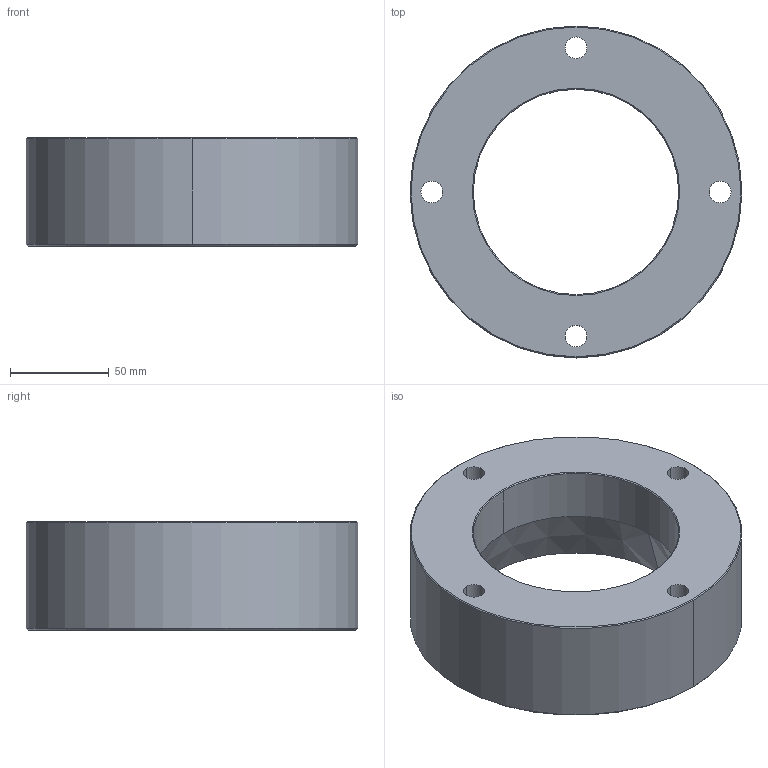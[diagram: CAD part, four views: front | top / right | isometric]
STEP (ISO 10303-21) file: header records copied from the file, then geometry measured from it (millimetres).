
FILE_DESCRIPTION((''),'2;1');
FILE_NAME('','2010-08-30T17:26:57+09:00',('misumi'),(''),'M/STEP i/f 1R2-14','CADmeister v5.1','');
FILE_SCHEMA(('AUTOMOTIVE_DESIGN'));
Length unit declared in the file: millimetre
Products named in the file (1): HKD80-55-Y
Bounding box: 168 x 168 x 55 mm (x, y, z)
Volume: 685996.5 mm3; surface area: 80227.4 mm2
Topology: 1 solids, 1 shells, 34 faces, 78 edges, 50 vertices
Faces by surface type: cylinder 20, cone 8, plane 6
Entity records: 1090 total; most frequent: DIRECTION 198, CARTESIAN_POINT 163, ORIENTED_EDGE 156, AXIS2_PLACEMENT_3D 85, EDGE_CURVE 78, VERTEX_POINT 50, CIRCLE 50, EDGE_LOOP 48
